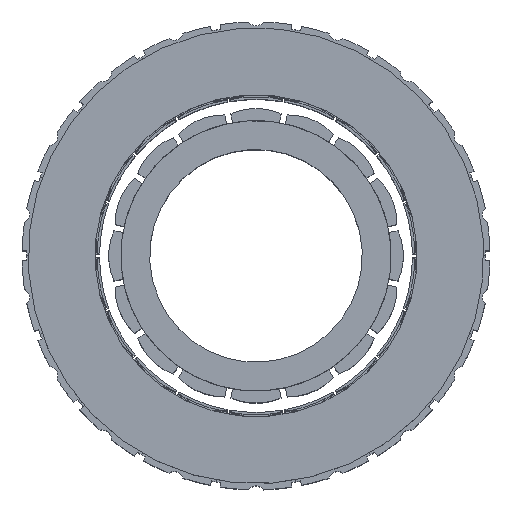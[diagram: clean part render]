
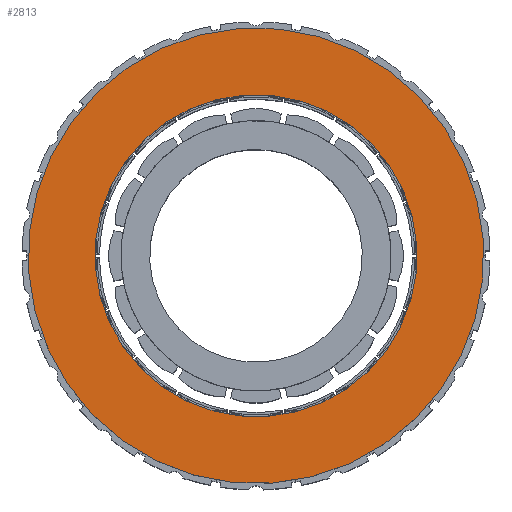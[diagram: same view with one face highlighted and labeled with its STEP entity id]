
A CAD part, top view. The second image highlights one B-rep face of the part: STEP entity #2813.
In plain terms, the highlighted planar face has unit normal (0, 0, 1).
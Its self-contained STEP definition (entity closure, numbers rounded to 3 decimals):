
#154 = ORIENTED_EDGE ( 'NONE', *, *, #2942, .F. ) ;
#215 = DIRECTION ( 'NONE',  ( 0., 0., 1. ) ) ;
#411 = CIRCLE ( 'NONE', #4282, 37.5 ) ;
#454 = CARTESIAN_POINT ( 'NONE',  ( 0., 0., 6.5 ) ) ;
#498 = VERTEX_POINT ( 'NONE', #1640 ) ;
#527 = EDGE_LOOP ( 'NONE', ( #1403, #154 ) ) ;
#657 = CIRCLE ( 'NONE', #5054, 26.5 ) ;
#663 = AXIS2_PLACEMENT_3D ( 'NONE', #454, #4602, #2090 ) ;
#1222 = DIRECTION ( 'NONE',  ( 1., 0., 0. ) ) ;
#1327 = ORIENTED_EDGE ( 'NONE', *, *, #3271, .T. ) ;
#1403 = ORIENTED_EDGE ( 'NONE', *, *, #2379, .F. ) ;
#1461 = CARTESIAN_POINT ( 'NONE',  ( 0., 0., 6.5 ) ) ;
#1640 = CARTESIAN_POINT ( 'NONE',  ( 37.5, 0., 6.5 ) ) ;
#1675 = DIRECTION ( 'NONE',  ( 0., 0., 1. ) ) ;
#1701 = EDGE_LOOP ( 'NONE', ( #1716, #1327 ) ) ;
#1716 = ORIENTED_EDGE ( 'NONE', *, *, #5108, .T. ) ;
#2061 = VERTEX_POINT ( 'NONE', #5059 ) ;
#2090 = DIRECTION ( 'NONE',  ( 1., 0., 0. ) ) ;
#2262 = AXIS2_PLACEMENT_3D ( 'NONE', #3243, #4440, #1222 ) ;
#2296 = DIRECTION ( 'NONE',  ( 0., 0., 1. ) ) ;
#2379 = EDGE_CURVE ( 'NONE', #4657, #2061, #657, .T. ) ;
#2607 = VERTEX_POINT ( 'NONE', #2888 ) ;
#2813 = ADVANCED_FACE ( 'NONE', ( #5028, #3435 ), #4226, .T. ) ;
#2888 = CARTESIAN_POINT ( 'NONE',  ( -37.5, 0., 6.5 ) ) ;
#2942 = EDGE_CURVE ( 'NONE', #2061, #4657, #4876, .T. ) ;
#3243 = CARTESIAN_POINT ( 'NONE',  ( 0., 0., 6.5 ) ) ;
#3271 = EDGE_CURVE ( 'NONE', #498, #2607, #4612, .T. ) ;
#3354 = DIRECTION ( 'NONE',  ( 1., 0., 0. ) ) ;
#3435 = FACE_BOUND ( 'NONE', #527, .T. ) ;
#3605 = DIRECTION ( 'NONE',  ( 1., 0., 0. ) ) ;
#3764 = CARTESIAN_POINT ( 'NONE',  ( 0., 0., 6.5 ) ) ;
#3825 = AXIS2_PLACEMENT_3D ( 'NONE', #3764, #1675, #3354 ) ;
#3971 = DIRECTION ( 'NONE',  ( 1., 0., 0. ) ) ;
#4226 = PLANE ( 'NONE',  #663 ) ;
#4282 = AXIS2_PLACEMENT_3D ( 'NONE', #1461, #215, #3605 ) ;
#4374 = CARTESIAN_POINT ( 'NONE',  ( 0., 0., 6.5 ) ) ;
#4440 = DIRECTION ( 'NONE',  ( 0., 0., 1. ) ) ;
#4602 = DIRECTION ( 'NONE',  ( 0., 0., 1. ) ) ;
#4612 = CIRCLE ( 'NONE', #2262, 37.5 ) ;
#4657 = VERTEX_POINT ( 'NONE', #5142 ) ;
#4876 = CIRCLE ( 'NONE', #3825, 26.5 ) ;
#5028 = FACE_OUTER_BOUND ( 'NONE', #1701, .T. ) ;
#5054 = AXIS2_PLACEMENT_3D ( 'NONE', #4374, #2296, #3971 ) ;
#5059 = CARTESIAN_POINT ( 'NONE',  ( 26.5, 0., 6.5 ) ) ;
#5108 = EDGE_CURVE ( 'NONE', #2607, #498, #411, .T. ) ;
#5142 = CARTESIAN_POINT ( 'NONE',  ( -26.5, 0., 6.5 ) ) ;
